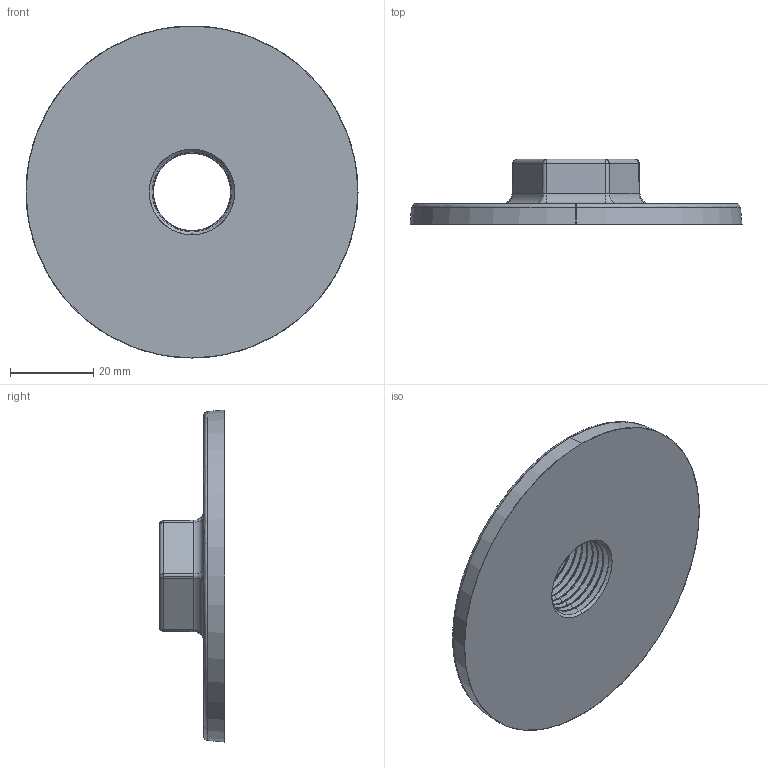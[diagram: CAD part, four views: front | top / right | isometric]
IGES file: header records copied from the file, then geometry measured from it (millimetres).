
Start section: SolidWorks IGES file using analytic representation for surfaces
Global section: file name: C:\Users\Joel Rosa\Desktop\Tubulação\12-99-OK\12-99-004.IGS; native system: SolidWorks 2011; preprocessor: SolidWorks 2011; author: Joel Rosa; date: 131021.200149; units: millimetre
Bounding box: 80 x 15.7 x 80 mm (x, y, z)
Surface area: 13040.3 mm2 (no closed solid volume)
Topology: 0 solids, 0 shells, 237 faces, 1960 edges, 1960 vertices
Faces by surface type: bspline 172, revolution 65
